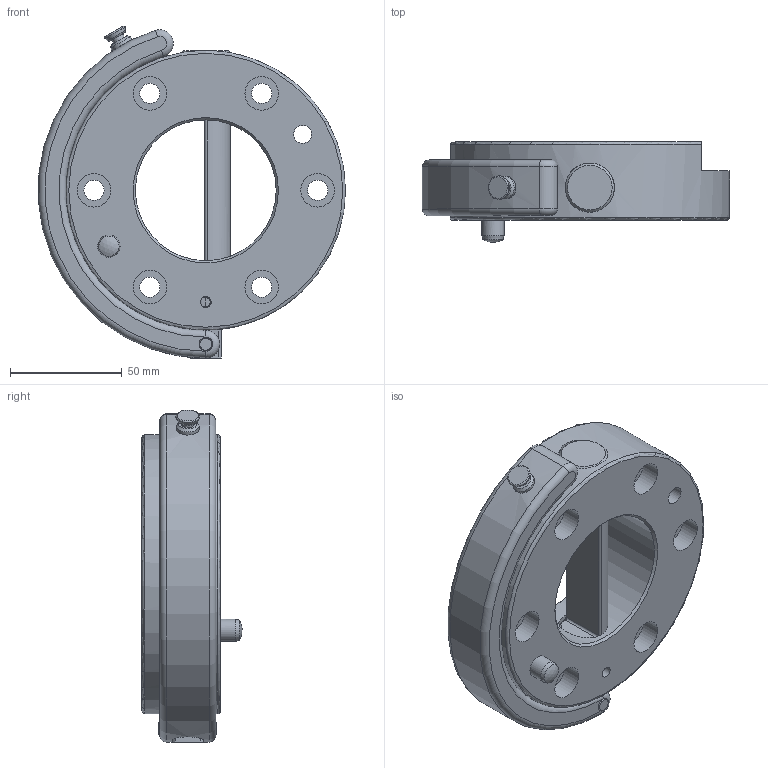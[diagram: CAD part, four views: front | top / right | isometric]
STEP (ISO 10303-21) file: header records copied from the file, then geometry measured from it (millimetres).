
FILE_DESCRIPTION((''),'2;1');
FILE_NAME('T:\CAD\Standard\Daten\3D-Datenbank\MGW\MGW125\step-Daten\G-MGW125-2OE.stp','2011-05-12T13:10:47',('Yvonne'),(''),'Autodesk Inventor 2011','Autodesk Inventor 2011','');
FILE_SCHEMA(('AUTOMOTIVE_DESIGN { 1 0 10303 214 1 1 1 1 }'));
Length unit declared in the file: millimetre
Products named in the file (1): Bauteil3
Bounding box: 137.32 x 44.75 x 148.48 mm (x, y, z)
Volume: 362470.4 mm3; surface area: 65971.1 mm2
Topology: 1 solids, 2 shells, 148 faces, 343 edges, 214 vertices
Faces by surface type: cylinder 58, plane 52, cone 18, torus 14, bspline 4, sphere 2
Full cylindrical faces by diameter (mm): 3.242 x2, 4 x1, 4.917 x3, 5.58 x1, 6 x2, 6.2 x1, 6.5 x1, 8 x2, 9 x6, 10 x2, 10.1 x1, 10.6 x1, 15 x6, 22 x2, 63 x1, 125 x1
Entity records: 4486 total; most frequent: CARTESIAN_POINT 1193, DIRECTION 668, ORIENTED_EDGE 538, AXIS2_PLACEMENT_3D 296, EDGE_CURVE 269, EDGE_LOOP 239, VERTEX_POINT 194, CIRCLE 151
